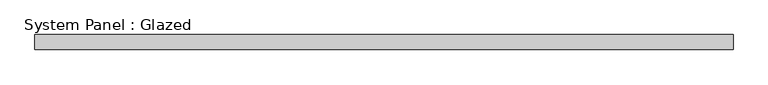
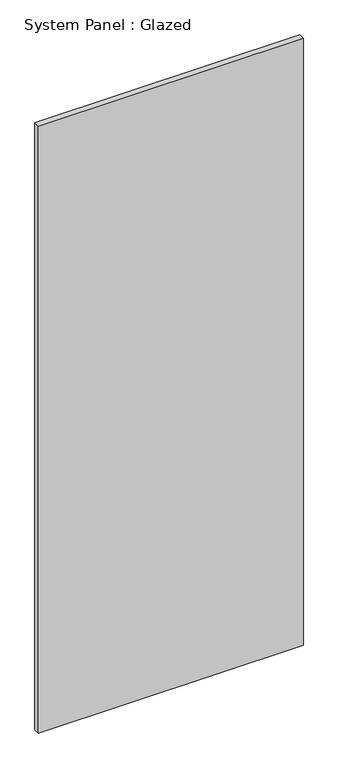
"""IFC4 building model written with IfcOpenShell, lengths in millimetres: plate geometry, System Panel : Glazed."""

from ifc_helpers import new_model, si_unit, origin, origin_with_axes, place, context, project, spatial, polyline, outline, extrude, source, transform, mapped, element, save


def system_panel_glazed_c41c2496(model_context):
    return source(origin(), model_context, "Body", "SweptSolid", [
        extrude(outline(polyline([(578.8703325, -25.0), (-578.8703325, -25.0), (-578.8703325, 0.0), (578.8703325, 0.0), (578.8703325, -25.0)])), origin_with_axes(), (0.0, 0.0, 1.0), 2800.0),
    ])


if __name__ == "__main__":
    model = new_model("IFC4")
    model_context = context("Model", 3, world=origin())
    ifc_project = project(units=[si_unit("LENGTHUNIT", "METRE", prefix="MILLI")], contexts=[model_context])
    site = spatial("IfcSite", under=ifc_project)
    building = spatial("IfcBuilding", under=site)
    placement = place(None, origin())
    system_panel_glazed_shape = system_panel_glazed_c41c2496(model_context)
    element("IfcPlate", 1, ObjectType="System Panel : Glazed", at=placement, inside=building, context=model_context, shape_type="MappedRepresentation", body=[
        mapped(system_panel_glazed_shape, transform((0.0, 0.0, 0.0), x_axis=(1.0, 0.0, 0.0), y_axis=(0.0, 1.0, 0.0), z_axis=(0.0, 0.0, 1.0))),
    ])
    save(model, "model.ifc")
